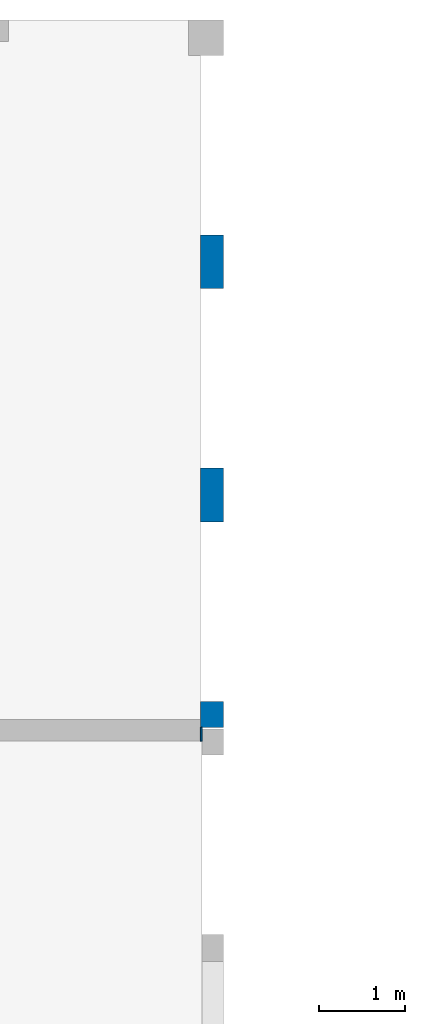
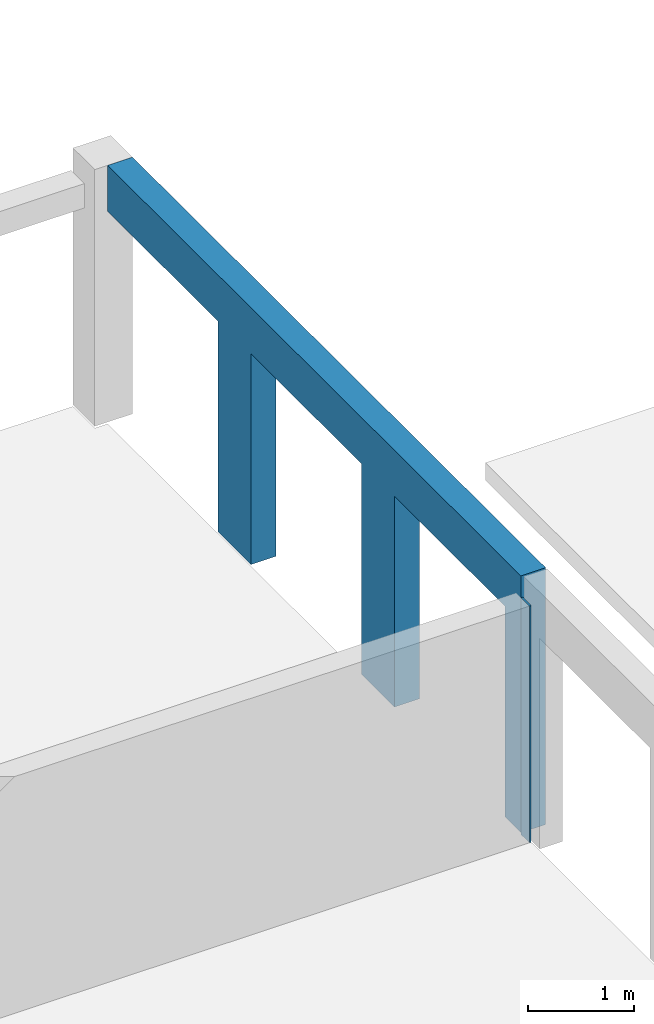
# One storey, part 8 of 14: 2 walls, 3 openings.
"""IFC2X3 building model written with IfcOpenShell, lengths in millimetres."""

from ifc_helpers import new_model, entity, si_unit, converted_unit, derived_unit, direction, frame, frame_2d, origin, place, context, subcontext, project, spatial, rectangle, extrude, material, layer, layer_set, layer_usage, type_object, element, save


model = new_model("IFC2X3")

# Units and contexts
model_context = context("Model", 3, precision=0.01, world=origin(), true_north=direction((6.12303176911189e-17, 1.0)))
body_context = subcontext(model_context, "Body", "Model", "MODEL_VIEW")
ifc_project = project(units=[si_unit("LENGTHUNIT", "METRE", prefix="MILLI"), si_unit("AREAUNIT", "SQUARE_METRE"), si_unit("VOLUMEUNIT", "CUBIC_METRE"), converted_unit("PLANEANGLEUNIT", "DEGREE", entity("IfcRatioMeasure", 0.0174532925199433), si_unit("PLANEANGLEUNIT", "RADIAN"), dimensions=[0, 0, 0, 0, 0, 0, 0]), si_unit("MASSUNIT", "GRAM", prefix="KILO"), derived_unit("MASSDENSITYUNIT", [(si_unit("MASSUNIT", "GRAM", prefix="KILO"), 1), (si_unit("LENGTHUNIT", "METRE"), -3)]), si_unit("TIMEUNIT", "SECOND"), si_unit("FREQUENCYUNIT", "HERTZ"), si_unit("THERMODYNAMICTEMPERATUREUNIT", "DEGREE_CELSIUS"), derived_unit("THERMALTRANSMITTANCEUNIT", [(si_unit("MASSUNIT", "GRAM", prefix="KILO"), 1), (si_unit("THERMODYNAMICTEMPERATUREUNIT", "KELVIN"), -1), (si_unit("TIMEUNIT", "SECOND"), -3)]), derived_unit("VOLUMETRICFLOWRATEUNIT", [(si_unit("LENGTHUNIT", "METRE"), 3), (si_unit("TIMEUNIT", "SECOND"), -1)]), si_unit("ELECTRICCURRENTUNIT", "AMPERE"), si_unit("ELECTRICVOLTAGEUNIT", "VOLT"), si_unit("POWERUNIT", "WATT"), si_unit("FORCEUNIT", "NEWTON", prefix="KILO"), si_unit("ILLUMINANCEUNIT", "LUX"), si_unit("LUMINOUSFLUXUNIT", "LUMEN"), si_unit("LUMINOUSINTENSITYUNIT", "CANDELA"), derived_unit("USERDEFINED", [(si_unit("MASSUNIT", "GRAM", prefix="KILO"), -1), (si_unit("LENGTHUNIT", "METRE"), -2), (si_unit("TIMEUNIT", "SECOND"), 3), (si_unit("LUMINOUSFLUXUNIT", "LUMEN"), 1)]), derived_unit("LINEARVELOCITYUNIT", [(si_unit("LENGTHUNIT", "METRE"), 1), (si_unit("TIMEUNIT", "SECOND"), -1)]), si_unit("PRESSUREUNIT", "PASCAL"), derived_unit("USERDEFINED", [(si_unit("LENGTHUNIT", "METRE"), -2), (si_unit("MASSUNIT", "GRAM", prefix="KILO"), 1), (si_unit("TIMEUNIT", "SECOND"), -2)])], contexts=[model_context])

# Site, building, storey
site_placement = place(None, origin())
site = spatial("IfcSite", under=ifc_project, at=site_placement, Name="Default", CompositionType="ELEMENT")
building_placement = place(site_placement, origin())
building = spatial("IfcBuilding", under=site, at=building_placement, Name="niet gebruiken", CompositionType="ELEMENT")
storey_placement = place(building_placement, frame((0.0, 0.0, 15570.0)))
storey = spatial("IfcBuildingStorey", under=building, at=storey_placement, Name="05 vijfde verdieping", CompositionType="ELEMENT", Elevation=15570.0)

# Wall, openings
ifc_material_1 = material(Name="NLRS_f2_beton prefab")
ifc_layer_1 = layer(ifc_material_1, 270.0)
ifc_layer_set_1 = layer_set([ifc_layer_1], Name="Basic Wall:NLRS_21.21_WA_beton prefab d=270_gen")
ifc_layer_usage_1 = layer_usage(ifc_layer_set_1, "AXIS2", "NEGATIVE", 135.0)
wall_type_1 = type_object("IfcWallType", Name="Basic Wall:NLRS_21.21_WA_beton prefab d=270_gen", PredefinedType="STANDARD", material=ifc_layer_set_1)
wall_1_placement = place(storey_placement, frame((56665.0, 52846.0, -70.0), z_axis=(0.0, 0.0, 1.0), x_axis=(0.0, -1.0, 0.0)))
wall_1 = element("IfcWallStandardCase", 1, at=wall_1_placement, inside=storey, type_object=wall_type_1, material=ifc_layer_usage_1, Name="Basic Wall:NLRS_21.21_WA_beton prefab d=270_gen", ObjectType="Basic Wall:NLRS_21.21_WA_beton prefab d=270_gen", context=body_context, shape_type="SweptSolid", body=[
    extrude(rectangle(XDim=7779.99999999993, YDim=270.000000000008, at=frame_2d((3889.99999999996, 0.0), x_axis=(-1.0, 0.0))), origin(), (0.0, 0.0, 1.0), 2949.99999999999),
])
opening_1_placement = place(wall_1_placement, origin())
element("IfcOpeningElement", 2, at=opening_1_placement, cuts=wall_1, Name="Basic Wall:NLRS_21.21_WA_beton prefab d=270_gen", ObjectType="Opening", context=body_context, shape_type="SweptSolid", body=[
    extrude(rectangle(XDim=2420.0, YDim=2080.0, at=frame_2d((8.64019966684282e-12, -1.02318153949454e-12), x_axis=(0.0, 1.0))), frame((1040.0, -1389.0, 1210.0), z_axis=(0.0, 1.0, 0.0), x_axis=(-1.0, 0.0, 0.0)), (0.0, 0.0, 1.0), 3048.0),
])
opening_2_placement = place(wall_1_placement, origin())
element("IfcOpeningElement", 3, at=opening_2_placement, cuts=wall_1, Name="Basic Wall:NLRS_21.21_WA_beton prefab d=270_gen", ObjectType="Opening", context=body_context, shape_type="SweptSolid", body=[
    extrude(rectangle(XDim=2420.0, YDim=2080.0, at=frame_2d((0.0, -1.02318153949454e-12), x_axis=(0.0, 1.0))), frame((3740.0, -1389.0, 1210.0), z_axis=(0.0, 1.0, 0.0), x_axis=(-1.0, 0.0, 0.0)), (0.0, 0.0, 1.0), 3048.0),
])
opening_3_placement = place(wall_1_placement, origin())
element("IfcOpeningElement", 4, at=opening_3_placement, cuts=wall_1, Name="Basic Wall:NLRS_21.21_WA_beton prefab d=270_gen", ObjectType="Opening", context=body_context, shape_type="SweptSolid", body=[
    extrude(rectangle(XDim=2420.0, YDim=2080.0, at=frame_2d((0.0, -1.02318153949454e-12), x_axis=(0.0, 1.0))), frame((6440.0, -1389.0, 1210.0), z_axis=(0.0, 1.0, 0.0), x_axis=(-1.0, 0.0, 0.0)), (0.0, 0.0, 1.0), 3048.0),
])

# Wall
ifc_material_2 = material(Name="NLRS_f2_beton ihwg")
ifc_layer_2 = layer(ifc_material_2, 160.0)
ifc_layer_set_2 = layer_set([ifc_layer_2], Name="Basic Wall:NLRS_22.21_WA_beton ihwg d=160_gen")
ifc_layer_usage_2 = layer_usage(ifc_layer_set_2, "AXIS2", "NEGATIVE", 80.0)
wall_type_2 = type_object("IfcWallType", Name="Basic Wall:NLRS_22.21_WA_beton ihwg d=160_gen", PredefinedType="STANDARD", material=ifc_layer_set_2)
wall_2_placement = place(storey_placement, frame((56530.0, 44986.0, -90.0)))
element("IfcWallStandardCase", 5, at=wall_2_placement, inside=storey, type_object=wall_type_2, material=ifc_layer_usage_2, Name="Basic Wall:NLRS_22.21_WA_beton ihwg d=160_gen", ObjectType="Basic Wall:NLRS_22.21_WA_beton ihwg d=160_gen", context=body_context, shape_type="SweptSolid", body=[
    extrude(rectangle(XDim=19.9999999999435, YDim=159.999999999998, at=frame_2d((9.99999999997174, 0.0), x_axis=(-1.0, 0.0))), origin(), (0.0, 0.0, 1.0), 2719.99999999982),
])

save(model, "model.ifc")
